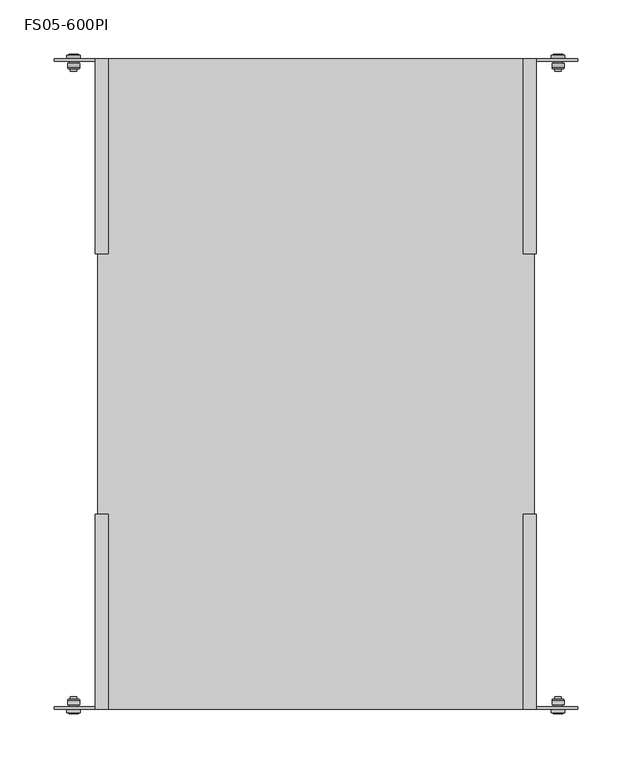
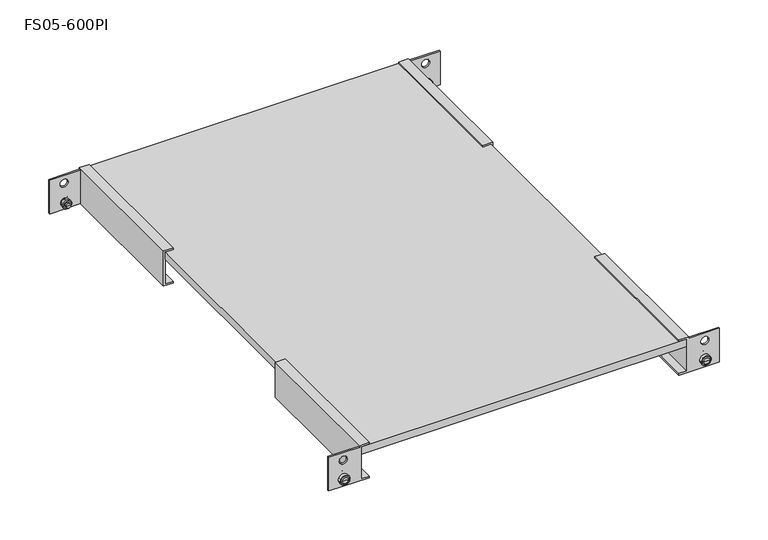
"""IFC4 building model written with IfcOpenShell, lengths in millimetres: proxy geometry, Полки стационарные универсальные : FS05-600PI."""

from ifc_helpers import new_model, si_unit, point, frame, origin, place, context, project, spatial, polyline, circle_curve, ellipse_curve, trimmed, outline, extrude, source, transform, mapped, element, save
from ifc_brep_helpers import plane_surface, cylinder_surface, revolved_surface, advanced_brep


def fs05_600pi_6c495413(model_context):
    return source(origin(), model_context, "Body", "SolidModel", [
        advanced_brep(
        [(223.4822805, 304.3499926, 10.0), (219.9883481, 304.3499926, 10.0), (226.9762128, 304.3499926, 10.0), (226.4822791, 288.7499968, 10.0), (220.4822818, 288.7499968, 10.0), (223.4822805, 288.7499968, 10.0), (226.4822791, 290.7999942, 10.0), (220.4822818, 290.7999942, 10.0), (227.9855464, 290.7999942, 10.0), (218.9790145, 290.7999942, 10.0), (228.9822767, 291.7967245, 10.0), (217.9822842, 291.7967245, 10.0), (228.9822767, 295.8, 10.0), (217.9822842, 295.8, 10.0), (227.6556322, 298.0, 10.0), (219.3089288, 298.0, 10.0), (227.6556322, 300.0, 10.0), (219.3089288, 300.0, 10.0), (229.732282, 300.0, 10.0), (217.232279, 300.0, 10.0), (229.732282, 303.5000006, 10.0), (217.232279, 303.5000006, 10.0), (228.8604456, 303.5000006, 10.0), (218.1041154, 303.5000006, 10.0)],
        [
            (0, 1),
            (1, 2, circle_curve(frame((223.4822805, 304.3499926, 10.0), z_axis=(0.0, 1.0, 0.0), x_axis=(-1.0, 0.0, 0.0)), 3.4939324)),
            (2, 0),
            (2, 1, circle_curve(frame((223.4822805, 304.3499926, 10.0), z_axis=(0.0, 1.0, 0.0), x_axis=(-1.0, 0.0, 0.0)), 3.4939324)),
            (3, 4, circle_curve(frame((223.4822805, 288.7499968, 10.0), z_axis=(0.0, -1.0, 0.0), x_axis=(-1.0, 0.0, 0.0)), 2.9999986)),
            (4, 5),
            (5, 3),
            (4, 3, circle_curve(frame((223.4822805, 288.7499968, 10.0), z_axis=(0.0, -1.0, 0.0), x_axis=(-1.0, 0.0, 0.0)), 2.9999986)),
            (6, 7, circle_curve(frame((223.4822805, 290.7999942, 10.0), z_axis=(0.0, -1.0, 0.0), x_axis=(-1.0, 0.0, 0.0)), 2.9999986)),
            (7, 4),
            (3, 6),
            (7, 6, circle_curve(frame((223.4822805, 290.7999942, 10.0), z_axis=(0.0, -1.0, 0.0), x_axis=(-1.0, 0.0, 0.0)), 2.9999986)),
            (8, 9, circle_curve(frame((223.4822805, 290.7999942, 10.0), z_axis=(0.0, -1.0, 0.0), x_axis=(-1.0, 0.0, 0.0)), 4.503266)),
            (9, 7),
            (6, 8),
            (9, 8, circle_curve(frame((223.4822805, 290.7999942, 10.0), z_axis=(0.0, -1.0, 0.0), x_axis=(-1.0, 0.0, 0.0)), 4.503266)),
            (10, 11, circle_curve(frame((223.4822805, 291.7967245, 10.0), z_axis=(0.0, -1.0, 0.0), x_axis=(-1.0, 0.0, 0.0)), 5.4999962)),
            (11, 9, circle_curve(frame((218.9790145, 291.7967245, 10.0), z_axis=(0.0, 0.0, 1.0), x_axis=(1.0, 0.0, 0.0)), 0.9967303)),
            (8, 10, circle_curve(frame((227.9855464, 291.7967245, 10.0), z_axis=(0.0, 0.0, 1.0), x_axis=(-1.0, 0.0, 0.0)), 0.9967303)),
            (11, 10, circle_curve(frame((223.4822805, 291.7967245, 10.0), z_axis=(0.0, -1.0, 0.0), x_axis=(-1.0, 0.0, 0.0)), 5.4999962)),
            (12, 13, circle_curve(frame((223.4822805, 295.8, 10.0), z_axis=(0.0, -1.0, 0.0), x_axis=(-1.0, 0.0, 0.0)), 5.4999962)),
            (13, 11),
            (10, 12),
            (13, 12, circle_curve(frame((223.4822805, 295.8, 10.0), z_axis=(0.0, -1.0, 0.0), x_axis=(-1.0, 0.0, 0.0)), 5.4999962)),
            (14, 15, circle_curve(frame((223.4822805, 298.0, 10.0), z_axis=(0.0, -1.0, 0.0), x_axis=(-1.0, 0.0, 0.0)), 4.1733517)),
            (15, 13, circle_curve(frame((217.9822789, 297.3, 10.0), z_axis=(0.0, 0.0, -1.0), x_axis=(1.0, 0.0, 0.0)), 1.5)),
            (12, 14, circle_curve(frame((228.9822821, 297.3, 10.0), z_axis=(0.0, 0.0, -1.0), x_axis=(-1.0, 0.0, 0.0)), 1.5)),
            (15, 14, circle_curve(frame((223.4822805, 298.0, 10.0), z_axis=(0.0, -1.0, 0.0), x_axis=(-1.0, 0.0, 0.0)), 4.1733517)),
            (16, 17, circle_curve(frame((223.4822805, 300.0, 10.0), z_axis=(0.0, -1.0, 0.0), x_axis=(-1.0, 0.0, 0.0)), 4.1733517)),
            (17, 15),
            (14, 16),
            (17, 16, circle_curve(frame((223.4822805, 300.0, 10.0), z_axis=(0.0, -1.0, 0.0), x_axis=(-1.0, 0.0, 0.0)), 4.1733517)),
            (18, 19, circle_curve(frame((223.4822805, 300.0, 10.0), z_axis=(0.0, -1.0, 0.0), x_axis=(-1.0, 0.0, 0.0)), 6.2500015)),
            (19, 17),
            (16, 18),
            (19, 18, circle_curve(frame((223.4822805, 300.0, 10.0), z_axis=(0.0, -1.0, 0.0), x_axis=(-1.0, 0.0, 0.0)), 6.2500015)),
            (20, 21, circle_curve(frame((223.4822805, 303.5000006, 10.0), z_axis=(0.0, -1.0, 0.0), x_axis=(-1.0, 0.0, 0.0)), 6.2500015)),
            (21, 19),
            (18, 20),
            (21, 20, circle_curve(frame((223.4822805, 303.5000006, 10.0), z_axis=(0.0, -1.0, 0.0), x_axis=(-1.0, 0.0, 0.0)), 6.2500015)),
            (22, 23, circle_curve(frame((223.4822805, 303.5000006, 10.0), z_axis=(0.0, -1.0, 0.0), x_axis=(-1.0, 0.0, 0.0)), 5.3781651)),
            (23, 21),
            (20, 22),
            (23, 22, circle_curve(frame((223.4822805, 303.5000006, 10.0), z_axis=(0.0, -1.0, 0.0), x_axis=(-1.0, 0.0, 0.0)), 5.3781651)),
            (1, 23, circle_curve(frame((219.9822789, 301.85, 10.0), z_axis=(0.0, 0.0, 1.0), x_axis=(1.0, 0.0, 0.0)), 2.5)),
            (22, 2, circle_curve(frame((226.9822821, 301.85, 10.0), z_axis=(0.0, 0.0, 1.0), x_axis=(-1.0, 0.0, 0.0)), 2.5)),
        ],
        [
            plane_surface(frame((223.4822805, 304.3499926, 10.0), z_axis=(0.0, 1.0, 0.0), x_axis=(-1.0, 0.0, 0.0))),
            plane_surface(frame((223.4822805, 288.7499968, 10.0), z_axis=(0.0, -1.0, 0.0), x_axis=(-1.0, 0.0, 0.0))),
            cylinder_surface(frame((223.4822805, -2309.0581012, 10.0), z_axis=(0.0, 1.0, 0.0), x_axis=(-1.0, 0.0, 0.0)), 2.9999986),
            plane_surface(frame((223.4822805, 290.7999942, 10.0), z_axis=(0.0, -1.0, 0.0), x_axis=(-1.0, 0.0, 0.0))),
            revolved_surface(trimmed(ellipse_curve(frame((218.9790145, 291.7967245, 10.0), z_axis=(0.0, 0.0, -1.0), x_axis=(1.0, 0.0, 0.0)), 0.9967303, 0.9967303), [point((218.9790145, 290.7999942, 10.0))], [point((217.9822842, 291.7967245, 10.0))], True, "CARTESIAN"), (223.4822805, -2309.0581012, 10.0), (0.0, 1.0, 0.0)),
            cylinder_surface(frame((223.4822805, -2309.0581012, 10.0), z_axis=(0.0, 1.0, 0.0), x_axis=(-1.0, 0.0, 0.0)), 5.4999962),
            revolved_surface(trimmed(ellipse_curve(frame((217.9822789, 297.3, 10.0), z_axis=(0.0, 0.0, 1.0), x_axis=(1.0, 0.0, 0.0)), 1.5, 1.5), [point((217.9822842, 295.8, 10.0))], [point((219.3089288, 298.0, 10.0))], True, "CARTESIAN"), (223.4822805, -2309.0581012, 10.0), (0.0, 1.0, 0.0)),
            cylinder_surface(frame((223.4822805, -2309.0581012, 10.0), z_axis=(0.0, 1.0, 0.0), x_axis=(-1.0, 0.0, 0.0)), 4.1733517),
            plane_surface(frame((223.4822805, 300.0, 10.0), z_axis=(0.0, -1.0, 0.0), x_axis=(-1.0, 0.0, 0.0))),
            cylinder_surface(frame((223.4822805, -2309.0581012, 10.0), z_axis=(0.0, 1.0, 0.0), x_axis=(-1.0, 0.0, 0.0)), 6.2500015),
            plane_surface(frame((223.4822805, 303.5000006, 10.0), z_axis=(0.0, 1.0, 0.0), x_axis=(-1.0, 0.0, 0.0))),
            revolved_surface(trimmed(ellipse_curve(frame((219.9822789, 301.85, 10.0), z_axis=(0.0, 0.0, -1.0), x_axis=(1.0, 0.0, 0.0)), 2.5, 2.5), [point((218.1041154, 303.5000006, 10.0))], [point((219.9883481, 304.3499926, 10.0))], True, "CARTESIAN"), (223.4822805, -2309.0581012, 10.0), (0.0, 1.0, 0.0)),
        ],
        [
            (0, [[1, 2, 3]]),
            (0, [[-3, 4, -1]]),
            (1, [[5, 6, 7]]),
            (1, [[8, -7, -6]]),
            (2, [[9, 10, -5, 11]]),
            (2, [[12, -11, -8, -10]]),
            (3, [[13, 14, -9, 15]]),
            (3, [[16, -15, -12, -14]]),
            (4, [[17, 18, -13, 19]]),
            (4, [[20, -19, -16, -18]]),
            (5, [[21, 22, -17, 23]]),
            (5, [[24, -23, -20, -22]]),
            (6, [[25, 26, -21, 27]]),
            (6, [[28, -27, -24, -26]]),
            (7, [[29, 30, -25, 31]]),
            (7, [[32, -31, -28, -30]]),
            (8, [[33, 34, -29, 35]]),
            (8, [[36, -35, -32, -34]]),
            (9, [[37, 38, -33, 39]]),
            (9, [[40, -39, -36, -38]]),
            (10, [[41, 42, -37, 43]]),
            (10, [[44, -43, -40, -42]]),
            (11, [[-2, 45, -41, 46]]),
            (11, [[-4, -46, -44, -45]]),
        ],
    ),
        advanced_brep(
        [(-223.4822805, 304.3499926, 10.0), (-226.9762128, 304.3499926, 10.0), (-219.9883481, 304.3499926, 10.0), (-220.4822818, 288.7499968, 10.0), (-226.4822791, 288.7499968, 10.0), (-223.4822805, 288.7499968, 10.0), (-220.4822818, 290.7999942, 10.0), (-226.4822791, 290.7999942, 10.0), (-218.9790145, 290.7999942, 10.0), (-227.9855464, 290.7999942, 10.0), (-217.9822842, 291.7967245, 10.0), (-228.9822767, 291.7967245, 10.0), (-217.9822842, 295.8, 10.0), (-228.9822767, 295.8, 10.0), (-219.3089288, 298.0, 10.0), (-227.6556322, 298.0, 10.0), (-219.3089288, 300.0, 10.0), (-227.6556322, 300.0, 10.0), (-217.232279, 300.0, 10.0), (-229.732282, 300.0, 10.0), (-217.232279, 303.5000006, 10.0), (-229.732282, 303.5000006, 10.0), (-218.1041154, 303.5000006, 10.0), (-228.8604456, 303.5000006, 10.0)],
        [
            (0, 1),
            (1, 2, circle_curve(frame((-223.4822805, 304.3499926, 10.0), z_axis=(0.0, 1.0, 0.0), x_axis=(-1.0, 0.0, 0.0)), 3.4939324)),
            (2, 0),
            (2, 1, circle_curve(frame((-223.4822805, 304.3499926, 10.0), z_axis=(0.0, 1.0, 0.0), x_axis=(-1.0, 0.0, 0.0)), 3.4939324)),
            (3, 4, circle_curve(frame((-223.4822805, 288.7499968, 10.0), z_axis=(0.0, -1.0, 0.0), x_axis=(-1.0, 0.0, 0.0)), 2.9999986)),
            (4, 5),
            (5, 3),
            (4, 3, circle_curve(frame((-223.4822805, 288.7499968, 10.0), z_axis=(0.0, -1.0, 0.0), x_axis=(-1.0, 0.0, 0.0)), 2.9999986)),
            (6, 7, circle_curve(frame((-223.4822805, 290.7999942, 10.0), z_axis=(0.0, -1.0, 0.0), x_axis=(-1.0, 0.0, 0.0)), 2.9999986)),
            (7, 4),
            (3, 6),
            (7, 6, circle_curve(frame((-223.4822805, 290.7999942, 10.0), z_axis=(0.0, -1.0, 0.0), x_axis=(-1.0, 0.0, 0.0)), 2.9999986)),
            (8, 9, circle_curve(frame((-223.4822805, 290.7999942, 10.0), z_axis=(0.0, -1.0, 0.0), x_axis=(-1.0, 0.0, 0.0)), 4.503266)),
            (9, 7),
            (6, 8),
            (9, 8, circle_curve(frame((-223.4822805, 290.7999942, 10.0), z_axis=(0.0, -1.0, 0.0), x_axis=(-1.0, 0.0, 0.0)), 4.503266)),
            (10, 11, circle_curve(frame((-223.4822805, 291.7967245, 10.0), z_axis=(0.0, -1.0, 0.0), x_axis=(-1.0, 0.0, 0.0)), 5.4999962)),
            (11, 9, circle_curve(frame((-227.9855464, 291.7967245, 10.0), z_axis=(0.0, 0.0, 1.0), x_axis=(1.0, 0.0, 0.0)), 0.9967303)),
            (8, 10, circle_curve(frame((-218.9790145, 291.7967245, 10.0), z_axis=(0.0, 0.0, 1.0), x_axis=(-1.0, 0.0, 0.0)), 0.9967303)),
            (11, 10, circle_curve(frame((-223.4822805, 291.7967245, 10.0), z_axis=(0.0, -1.0, 0.0), x_axis=(-1.0, 0.0, 0.0)), 5.4999962)),
            (12, 13, circle_curve(frame((-223.4822805, 295.8, 10.0), z_axis=(0.0, -1.0, 0.0), x_axis=(-1.0, 0.0, 0.0)), 5.4999962)),
            (13, 11),
            (10, 12),
            (13, 12, circle_curve(frame((-223.4822805, 295.8, 10.0), z_axis=(0.0, -1.0, 0.0), x_axis=(-1.0, 0.0, 0.0)), 5.4999962)),
            (14, 15, circle_curve(frame((-223.4822805, 298.0, 10.0), z_axis=(0.0, -1.0, 0.0), x_axis=(-1.0, 0.0, 0.0)), 4.1733517)),
            (15, 13, circle_curve(frame((-228.9822821, 297.3, 10.0), z_axis=(0.0, 0.0, -1.0), x_axis=(1.0, 0.0, 0.0)), 1.5)),
            (12, 14, circle_curve(frame((-217.9822789, 297.3, 10.0), z_axis=(0.0, 0.0, -1.0), x_axis=(-1.0, 0.0, 0.0)), 1.5)),
            (15, 14, circle_curve(frame((-223.4822805, 298.0, 10.0), z_axis=(0.0, -1.0, 0.0), x_axis=(-1.0, 0.0, 0.0)), 4.1733517)),
            (16, 17, circle_curve(frame((-223.4822805, 300.0, 10.0), z_axis=(0.0, -1.0, 0.0), x_axis=(-1.0, 0.0, 0.0)), 4.1733517)),
            (17, 15),
            (14, 16),
            (17, 16, circle_curve(frame((-223.4822805, 300.0, 10.0), z_axis=(0.0, -1.0, 0.0), x_axis=(-1.0, 0.0, 0.0)), 4.1733517)),
            (18, 19, circle_curve(frame((-223.4822805, 300.0, 10.0), z_axis=(0.0, -1.0, 0.0), x_axis=(-1.0, 0.0, 0.0)), 6.2500015)),
            (19, 17),
            (16, 18),
            (19, 18, circle_curve(frame((-223.4822805, 300.0, 10.0), z_axis=(0.0, -1.0, 0.0), x_axis=(-1.0, 0.0, 0.0)), 6.2500015)),
            (20, 21, circle_curve(frame((-223.4822805, 303.5000006, 10.0), z_axis=(0.0, -1.0, 0.0), x_axis=(-1.0, 0.0, 0.0)), 6.2500015)),
            (21, 19),
            (18, 20),
            (21, 20, circle_curve(frame((-223.4822805, 303.5000006, 10.0), z_axis=(0.0, -1.0, 0.0), x_axis=(-1.0, 0.0, 0.0)), 6.2500015)),
            (22, 23, circle_curve(frame((-223.4822805, 303.5000006, 10.0), z_axis=(0.0, -1.0, 0.0), x_axis=(-1.0, 0.0, 0.0)), 5.3781651)),
            (23, 21),
            (20, 22),
            (23, 22, circle_curve(frame((-223.4822805, 303.5000006, 10.0), z_axis=(0.0, -1.0, 0.0), x_axis=(-1.0, 0.0, 0.0)), 5.3781651)),
            (1, 23, circle_curve(frame((-226.9822821, 301.85, 10.0), z_axis=(0.0, 0.0, 1.0), x_axis=(1.0, 0.0, 0.0)), 2.5)),
            (22, 2, circle_curve(frame((-219.9822789, 301.85, 10.0), z_axis=(0.0, 0.0, 1.0), x_axis=(-1.0, 0.0, 0.0)), 2.5)),
        ],
        [
            plane_surface(frame((-223.4822805, 304.3499926, 10.0), z_axis=(0.0, 1.0, 0.0), x_axis=(-1.0, 0.0, 0.0))),
            plane_surface(frame((-223.4822805, 288.7499968, 10.0), z_axis=(0.0, -1.0, 0.0), x_axis=(-1.0, 0.0, 0.0))),
            cylinder_surface(frame((-223.4822805, -2309.0581012, 10.0), z_axis=(0.0, 1.0, 0.0), x_axis=(-1.0, 0.0, 0.0)), 2.9999986),
            plane_surface(frame((-223.4822805, 290.7999942, 10.0), z_axis=(0.0, -1.0, 0.0), x_axis=(-1.0, 0.0, 0.0))),
            revolved_surface(trimmed(ellipse_curve(frame((-227.9855464, 291.7967245, 10.0), z_axis=(0.0, 0.0, -1.0), x_axis=(1.0, 0.0, 0.0)), 0.9967303, 0.9967303), [point((-227.9855464, 290.7999942, 10.0))], [point((-228.9822767, 291.7967245, 10.0))], True, "CARTESIAN"), (-223.4822805, -2309.0581012, 10.0), (0.0, 1.0, 0.0)),
            cylinder_surface(frame((-223.4822805, -2309.0581012, 10.0), z_axis=(0.0, 1.0, 0.0), x_axis=(-1.0, 0.0, 0.0)), 5.4999962),
            revolved_surface(trimmed(ellipse_curve(frame((-228.9822821, 297.3, 10.0), z_axis=(0.0, 0.0, 1.0), x_axis=(1.0, 0.0, 0.0)), 1.5, 1.5), [point((-228.9822767, 295.8, 10.0))], [point((-227.6556322, 298.0, 10.0))], True, "CARTESIAN"), (-223.4822805, -2309.0581012, 10.0), (0.0, 1.0, 0.0)),
            cylinder_surface(frame((-223.4822805, -2309.0581012, 10.0), z_axis=(0.0, 1.0, 0.0), x_axis=(-1.0, 0.0, 0.0)), 4.1733517),
            plane_surface(frame((-223.4822805, 300.0, 10.0), z_axis=(0.0, -1.0, 0.0), x_axis=(-1.0, 0.0, 0.0))),
            cylinder_surface(frame((-223.4822805, -2309.0581012, 10.0), z_axis=(0.0, 1.0, 0.0), x_axis=(-1.0, 0.0, 0.0)), 6.2500015),
            plane_surface(frame((-223.4822805, 303.5000006, 10.0), z_axis=(0.0, 1.0, 0.0), x_axis=(-1.0, 0.0, 0.0))),
            revolved_surface(trimmed(ellipse_curve(frame((-226.9822821, 301.85, 10.0), z_axis=(0.0, 0.0, -1.0), x_axis=(1.0, 0.0, 0.0)), 2.5, 2.5), [point((-228.8604456, 303.5000006, 10.0))], [point((-226.9762128, 304.3499926, 10.0))], True, "CARTESIAN"), (-223.4822805, -2309.0581012, 10.0), (0.0, 1.0, 0.0)),
        ],
        [
            (0, [[1, 2, 3]]),
            (0, [[-3, 4, -1]]),
            (1, [[5, 6, 7]]),
            (1, [[8, -7, -6]]),
            (2, [[9, 10, -5, 11]]),
            (2, [[12, -11, -8, -10]]),
            (3, [[13, 14, -9, 15]]),
            (3, [[16, -15, -12, -14]]),
            (4, [[17, 18, -13, 19]]),
            (4, [[20, -19, -16, -18]]),
            (5, [[21, 22, -17, 23]]),
            (5, [[24, -23, -20, -22]]),
            (6, [[25, 26, -21, 27]]),
            (6, [[28, -27, -24, -26]]),
            (7, [[29, 30, -25, 31]]),
            (7, [[32, -31, -28, -30]]),
            (8, [[33, 34, -29, 35]]),
            (8, [[36, -35, -32, -34]]),
            (9, [[37, 38, -33, 39]]),
            (9, [[40, -39, -36, -38]]),
            (10, [[41, 42, -37, 43]]),
            (10, [[44, -43, -40, -42]]),
            (11, [[-2, 45, -41, 46]]),
            (11, [[-4, -46, -44, -45]]),
        ],
    ),
        advanced_brep(
        [(-223.4822805, -304.3499926, 10.0), (-219.9883481, -304.3499926, 10.0), (-226.9762128, -304.3499926, 10.0), (-226.4822791, -288.7499968, 10.0), (-220.4822818, -288.7499968, 10.0), (-223.4822805, -288.7499968, 10.0), (-226.4822791, -290.7999942, 10.0), (-220.4822818, -290.7999942, 10.0), (-227.9855464, -290.7999942, 10.0), (-218.9790145, -290.7999942, 10.0), (-228.9822767, -291.7967245, 10.0), (-217.9822842, -291.7967245, 10.0), (-228.9822767, -295.8, 10.0), (-217.9822842, -295.8, 10.0), (-227.6556322, -298.0, 10.0), (-219.3089288, -298.0, 10.0), (-227.6556322, -300.0, 10.0), (-219.3089288, -300.0, 10.0), (-229.732282, -300.0, 10.0), (-217.232279, -300.0, 10.0), (-229.732282, -303.5000006, 10.0), (-217.232279, -303.5000006, 10.0), (-228.8604456, -303.5000006, 10.0), (-218.1041154, -303.5000006, 10.0)],
        [
            (0, 1),
            (1, 2, circle_curve(frame((-223.4822805, -304.3499926, 10.0), z_axis=(0.0, -1.0, 0.0), x_axis=(1.0, 0.0, 0.0)), 3.4939324)),
            (2, 0),
            (2, 1, circle_curve(frame((-223.4822805, -304.3499926, 10.0), z_axis=(0.0, -1.0, 0.0), x_axis=(1.0, 0.0, 0.0)), 3.4939324)),
            (3, 4, circle_curve(frame((-223.4822805, -288.7499968, 10.0), z_axis=(0.0, 1.0, 0.0), x_axis=(1.0, 0.0, 0.0)), 2.9999986)),
            (4, 5),
            (5, 3),
            (4, 3, circle_curve(frame((-223.4822805, -288.7499968, 10.0), z_axis=(0.0, 1.0, 0.0), x_axis=(1.0, 0.0, 0.0)), 2.9999986)),
            (6, 7, circle_curve(frame((-223.4822805, -290.7999942, 10.0), z_axis=(0.0, 1.0, 0.0), x_axis=(1.0, 0.0, 0.0)), 2.9999986)),
            (7, 4),
            (3, 6),
            (7, 6, circle_curve(frame((-223.4822805, -290.7999942, 10.0), z_axis=(0.0, 1.0, 0.0), x_axis=(1.0, 0.0, 0.0)), 2.9999986)),
            (8, 9, circle_curve(frame((-223.4822805, -290.7999942, 10.0), z_axis=(0.0, 1.0, 0.0), x_axis=(1.0, 0.0, 0.0)), 4.503266)),
            (9, 7),
            (6, 8),
            (9, 8, circle_curve(frame((-223.4822805, -290.7999942, 10.0), z_axis=(0.0, 1.0, 0.0), x_axis=(1.0, 0.0, 0.0)), 4.503266)),
            (10, 11, circle_curve(frame((-223.4822805, -291.7967245, 10.0), z_axis=(0.0, 1.0, 0.0), x_axis=(1.0, 0.0, 0.0)), 5.4999962)),
            (11, 9, circle_curve(frame((-218.9790145, -291.7967245, 10.0), z_axis=(0.0, 0.0, 1.0), x_axis=(-1.0, 0.0, 0.0)), 0.9967303)),
            (8, 10, circle_curve(frame((-227.9855464, -291.7967245, 10.0), z_axis=(0.0, 0.0, 1.0), x_axis=(1.0, 0.0, 0.0)), 0.9967303)),
            (11, 10, circle_curve(frame((-223.4822805, -291.7967245, 10.0), z_axis=(0.0, 1.0, 0.0), x_axis=(1.0, 0.0, 0.0)), 5.4999962)),
            (12, 13, circle_curve(frame((-223.4822805, -295.8, 10.0), z_axis=(0.0, 1.0, 0.0), x_axis=(1.0, 0.0, 0.0)), 5.4999962)),
            (13, 11),
            (10, 12),
            (13, 12, circle_curve(frame((-223.4822805, -295.8, 10.0), z_axis=(0.0, 1.0, 0.0), x_axis=(1.0, 0.0, 0.0)), 5.4999962)),
            (14, 15, circle_curve(frame((-223.4822805, -298.0, 10.0), z_axis=(0.0, 1.0, 0.0), x_axis=(1.0, 0.0, 0.0)), 4.1733517)),
            (15, 13, circle_curve(frame((-217.9822789, -297.3, 10.0), z_axis=(0.0, 0.0, -1.0), x_axis=(-1.0, 0.0, 0.0)), 1.5)),
            (12, 14, circle_curve(frame((-228.9822821, -297.3, 10.0), z_axis=(0.0, 0.0, -1.0), x_axis=(1.0, 0.0, 0.0)), 1.5)),
            (15, 14, circle_curve(frame((-223.4822805, -298.0, 10.0), z_axis=(0.0, 1.0, 0.0), x_axis=(1.0, 0.0, 0.0)), 4.1733517)),
            (16, 17, circle_curve(frame((-223.4822805, -300.0, 10.0), z_axis=(0.0, 1.0, 0.0), x_axis=(1.0, 0.0, 0.0)), 4.1733517)),
            (17, 15),
            (14, 16),
            (17, 16, circle_curve(frame((-223.4822805, -300.0, 10.0), z_axis=(0.0, 1.0, 0.0), x_axis=(1.0, 0.0, 0.0)), 4.1733517)),
            (18, 19, circle_curve(frame((-223.4822805, -300.0, 10.0), z_axis=(0.0, 1.0, 0.0), x_axis=(1.0, 0.0, 0.0)), 6.2500015)),
            (19, 17),
            (16, 18),
            (19, 18, circle_curve(frame((-223.4822805, -300.0, 10.0), z_axis=(0.0, 1.0, 0.0), x_axis=(1.0, 0.0, 0.0)), 6.2500015)),
            (20, 21, circle_curve(frame((-223.4822805, -303.5000006, 10.0), z_axis=(0.0, 1.0, 0.0), x_axis=(1.0, 0.0, 0.0)), 6.2500015)),
            (21, 19),
            (18, 20),
            (21, 20, circle_curve(frame((-223.4822805, -303.5000006, 10.0), z_axis=(0.0, 1.0, 0.0), x_axis=(1.0, 0.0, 0.0)), 6.2500015)),
            (22, 23, circle_curve(frame((-223.4822805, -303.5000006, 10.0), z_axis=(0.0, 1.0, 0.0), x_axis=(1.0, 0.0, 0.0)), 5.3781651)),
            (23, 21),
            (20, 22),
            (23, 22, circle_curve(frame((-223.4822805, -303.5000006, 10.0), z_axis=(0.0, 1.0, 0.0), x_axis=(1.0, 0.0, 0.0)), 5.3781651)),
            (1, 23, circle_curve(frame((-219.9822789, -301.85, 10.0), z_axis=(0.0, 0.0, 1.0), x_axis=(-1.0, 0.0, 0.0)), 2.5)),
            (22, 2, circle_curve(frame((-226.9822821, -301.85, 10.0), z_axis=(0.0, 0.0, 1.0), x_axis=(1.0, 0.0, 0.0)), 2.5)),
        ],
        [
            plane_surface(frame((-223.4822805, -304.3499926, 10.0), z_axis=(0.0, -1.0, 0.0), x_axis=(1.0, 0.0, 0.0))),
            plane_surface(frame((-223.4822805, -288.7499968, 10.0), z_axis=(0.0, 1.0, 0.0), x_axis=(1.0, 0.0, 0.0))),
            cylinder_surface(frame((-223.4822805, 2309.0581012, 10.0), z_axis=(0.0, -1.0, 0.0), x_axis=(1.0, 0.0, 0.0)), 2.9999986),
            plane_surface(frame((-223.4822805, -290.7999942, 10.0), z_axis=(0.0, 1.0, 0.0), x_axis=(1.0, 0.0, 0.0))),
            revolved_surface(trimmed(ellipse_curve(frame((-218.9790145, -291.7967245, 10.0), z_axis=(0.0, 0.0, -1.0), x_axis=(-1.0, 0.0, 0.0)), 0.9967303, 0.9967303), [point((-218.9790145, -290.7999942, 10.0))], [point((-217.9822842, -291.7967245, 10.0))], True, "CARTESIAN"), (-223.4822805, 2309.0581012, 10.0), (0.0, -1.0, 0.0)),
            cylinder_surface(frame((-223.4822805, 2309.0581012, 10.0), z_axis=(0.0, -1.0, 0.0), x_axis=(1.0, 0.0, 0.0)), 5.4999962),
            revolved_surface(trimmed(ellipse_curve(frame((-217.9822789, -297.3, 10.0), z_axis=(0.0, 0.0, 1.0), x_axis=(-1.0, 0.0, 0.0)), 1.5, 1.5), [point((-217.9822842, -295.8, 10.0))], [point((-219.3089288, -298.0, 10.0))], True, "CARTESIAN"), (-223.4822805, 2309.0581012, 10.0), (0.0, -1.0, 0.0)),
            cylinder_surface(frame((-223.4822805, 2309.0581012, 10.0), z_axis=(0.0, -1.0, 0.0), x_axis=(1.0, 0.0, 0.0)), 4.1733517),
            plane_surface(frame((-223.4822805, -300.0, 10.0), z_axis=(0.0, 1.0, 0.0), x_axis=(1.0, 0.0, 0.0))),
            cylinder_surface(frame((-223.4822805, 2309.0581012, 10.0), z_axis=(0.0, -1.0, 0.0), x_axis=(1.0, 0.0, 0.0)), 6.2500015),
            plane_surface(frame((-223.4822805, -303.5000006, 10.0), z_axis=(0.0, -1.0, 0.0), x_axis=(1.0, 0.0, 0.0))),
            revolved_surface(trimmed(ellipse_curve(frame((-219.9822789, -301.85, 10.0), z_axis=(0.0, 0.0, -1.0), x_axis=(-1.0, 0.0, 0.0)), 2.5, 2.5), [point((-218.1041154, -303.5000006, 10.0))], [point((-219.9883481, -304.3499926, 10.0))], True, "CARTESIAN"), (-223.4822805, 2309.0581012, 10.0), (0.0, -1.0, 0.0)),
        ],
        [
            (0, [[1, 2, 3]]),
            (0, [[-3, 4, -1]]),
            (1, [[5, 6, 7]]),
            (1, [[8, -7, -6]]),
            (2, [[9, 10, -5, 11]]),
            (2, [[12, -11, -8, -10]]),
            (3, [[13, 14, -9, 15]]),
            (3, [[16, -15, -12, -14]]),
            (4, [[17, 18, -13, 19]]),
            (4, [[20, -19, -16, -18]]),
            (5, [[21, 22, -17, 23]]),
            (5, [[24, -23, -20, -22]]),
            (6, [[25, 26, -21, 27]]),
            (6, [[28, -27, -24, -26]]),
            (7, [[29, 30, -25, 31]]),
            (7, [[32, -31, -28, -30]]),
            (8, [[33, 34, -29, 35]]),
            (8, [[36, -35, -32, -34]]),
            (9, [[37, 38, -33, 39]]),
            (9, [[40, -39, -36, -38]]),
            (10, [[41, 42, -37, 43]]),
            (10, [[44, -43, -40, -42]]),
            (11, [[-2, 45, -41, 46]]),
            (11, [[-4, -46, -44, -45]]),
        ],
    ),
        advanced_brep(
        [(223.4822805, -304.3499926, 10.0), (226.9762128, -304.3499926, 10.0), (219.9883481, -304.3499926, 10.0), (220.4822818, -288.7499968, 10.0), (226.4822791, -288.7499968, 10.0), (223.4822805, -288.7499968, 10.0), (220.4822818, -290.7999942, 10.0), (226.4822791, -290.7999942, 10.0), (218.9790145, -290.7999942, 10.0), (227.9855464, -290.7999942, 10.0), (217.9822842, -291.7967245, 10.0), (228.9822767, -291.7967245, 10.0), (217.9822842, -295.8, 10.0), (228.9822767, -295.8, 10.0), (219.3089288, -298.0, 10.0), (227.6556322, -298.0, 10.0), (219.3089288, -300.0, 10.0), (227.6556322, -300.0, 10.0), (217.232279, -300.0, 10.0), (229.732282, -300.0, 10.0), (217.232279, -303.5000006, 10.0), (229.732282, -303.5000006, 10.0), (218.1041154, -303.5000006, 10.0), (228.8604456, -303.5000006, 10.0)],
        [
            (0, 1),
            (1, 2, circle_curve(frame((223.4822805, -304.3499926, 10.0), z_axis=(0.0, -1.0, 0.0), x_axis=(1.0, 0.0, 0.0)), 3.4939324)),
            (2, 0),
            (2, 1, circle_curve(frame((223.4822805, -304.3499926, 10.0), z_axis=(0.0, -1.0, 0.0), x_axis=(1.0, 0.0, 0.0)), 3.4939324)),
            (3, 4, circle_curve(frame((223.4822805, -288.7499968, 10.0), z_axis=(0.0, 1.0, 0.0), x_axis=(1.0, 0.0, 0.0)), 2.9999986)),
            (4, 5),
            (5, 3),
            (4, 3, circle_curve(frame((223.4822805, -288.7499968, 10.0), z_axis=(0.0, 1.0, 0.0), x_axis=(1.0, 0.0, 0.0)), 2.9999986)),
            (6, 7, circle_curve(frame((223.4822805, -290.7999942, 10.0), z_axis=(0.0, 1.0, 0.0), x_axis=(1.0, 0.0, 0.0)), 2.9999986)),
            (7, 4),
            (3, 6),
            (7, 6, circle_curve(frame((223.4822805, -290.7999942, 10.0), z_axis=(0.0, 1.0, 0.0), x_axis=(1.0, 0.0, 0.0)), 2.9999986)),
            (8, 9, circle_curve(frame((223.4822805, -290.7999942, 10.0), z_axis=(0.0, 1.0, 0.0), x_axis=(1.0, 0.0, 0.0)), 4.503266)),
            (9, 7),
            (6, 8),
            (9, 8, circle_curve(frame((223.4822805, -290.7999942, 10.0), z_axis=(0.0, 1.0, 0.0), x_axis=(1.0, 0.0, 0.0)), 4.503266)),
            (10, 11, circle_curve(frame((223.4822805, -291.7967245, 10.0), z_axis=(0.0, 1.0, 0.0), x_axis=(1.0, 0.0, 0.0)), 5.4999962)),
            (11, 9, circle_curve(frame((227.9855464, -291.7967245, 10.0), z_axis=(0.0, 0.0, 1.0), x_axis=(-1.0, 0.0, 0.0)), 0.9967303)),
            (8, 10, circle_curve(frame((218.9790145, -291.7967245, 10.0), z_axis=(0.0, 0.0, 1.0), x_axis=(1.0, 0.0, 0.0)), 0.9967303)),
            (11, 10, circle_curve(frame((223.4822805, -291.7967245, 10.0), z_axis=(0.0, 1.0, 0.0), x_axis=(1.0, 0.0, 0.0)), 5.4999962)),
            (12, 13, circle_curve(frame((223.4822805, -295.8, 10.0), z_axis=(0.0, 1.0, 0.0), x_axis=(1.0, 0.0, 0.0)), 5.4999962)),
            (13, 11),
            (10, 12),
            (13, 12, circle_curve(frame((223.4822805, -295.8, 10.0), z_axis=(0.0, 1.0, 0.0), x_axis=(1.0, 0.0, 0.0)), 5.4999962)),
            (14, 15, circle_curve(frame((223.4822805, -298.0, 10.0), z_axis=(0.0, 1.0, 0.0), x_axis=(1.0, 0.0, 0.0)), 4.1733517)),
            (15, 13, circle_curve(frame((228.9822821, -297.3, 10.0), z_axis=(0.0, 0.0, -1.0), x_axis=(-1.0, 0.0, 0.0)), 1.5)),
            (12, 14, circle_curve(frame((217.9822789, -297.3, 10.0), z_axis=(0.0, 0.0, -1.0), x_axis=(1.0, 0.0, 0.0)), 1.5)),
            (15, 14, circle_curve(frame((223.4822805, -298.0, 10.0), z_axis=(0.0, 1.0, 0.0), x_axis=(1.0, 0.0, 0.0)), 4.1733517)),
            (16, 17, circle_curve(frame((223.4822805, -300.0, 10.0), z_axis=(0.0, 1.0, 0.0), x_axis=(1.0, 0.0, 0.0)), 4.1733517)),
            (17, 15),
            (14, 16),
            (17, 16, circle_curve(frame((223.4822805, -300.0, 10.0), z_axis=(0.0, 1.0, 0.0), x_axis=(1.0, 0.0, 0.0)), 4.1733517)),
            (18, 19, circle_curve(frame((223.4822805, -300.0, 10.0), z_axis=(0.0, 1.0, 0.0), x_axis=(1.0, 0.0, 0.0)), 6.2500015)),
            (19, 17),
            (16, 18),
            (19, 18, circle_curve(frame((223.4822805, -300.0, 10.0), z_axis=(0.0, 1.0, 0.0), x_axis=(1.0, 0.0, 0.0)), 6.2500015)),
            (20, 21, circle_curve(frame((223.4822805, -303.5000006, 10.0), z_axis=(0.0, 1.0, 0.0), x_axis=(1.0, 0.0, 0.0)), 6.2500015)),
            (21, 19),
            (18, 20),
            (21, 20, circle_curve(frame((223.4822805, -303.5000006, 10.0), z_axis=(0.0, 1.0, 0.0), x_axis=(1.0, 0.0, 0.0)), 6.2500015)),
            (22, 23, circle_curve(frame((223.4822805, -303.5000006, 10.0), z_axis=(0.0, 1.0, 0.0), x_axis=(1.0, 0.0, 0.0)), 5.3781651)),
            (23, 21),
            (20, 22),
            (23, 22, circle_curve(frame((223.4822805, -303.5000006, 10.0), z_axis=(0.0, 1.0, 0.0), x_axis=(1.0, 0.0, 0.0)), 5.3781651)),
            (1, 23, circle_curve(frame((226.9822821, -301.85, 10.0), z_axis=(0.0, 0.0, 1.0), x_axis=(-1.0, 0.0, 0.0)), 2.5)),
            (22, 2, circle_curve(frame((219.9822789, -301.85, 10.0), z_axis=(0.0, 0.0, 1.0), x_axis=(1.0, 0.0, 0.0)), 2.5)),
        ],
        [
            plane_surface(frame((223.4822805, -304.3499926, 10.0), z_axis=(0.0, -1.0, 0.0), x_axis=(1.0, 0.0, 0.0))),
            plane_surface(frame((223.4822805, -288.7499968, 10.0), z_axis=(0.0, 1.0, 0.0), x_axis=(1.0, 0.0, 0.0))),
            cylinder_surface(frame((223.4822805, 2309.0581012, 10.0), z_axis=(0.0, -1.0, 0.0), x_axis=(1.0, 0.0, 0.0)), 2.9999986),
            plane_surface(frame((223.4822805, -290.7999942, 10.0), z_axis=(0.0, 1.0, 0.0), x_axis=(1.0, 0.0, 0.0))),
            revolved_surface(trimmed(ellipse_curve(frame((227.9855464, -291.7967245, 10.0), z_axis=(0.0, 0.0, -1.0), x_axis=(-1.0, 0.0, 0.0)), 0.9967303, 0.9967303), [point((227.9855464, -290.7999942, 10.0))], [point((228.9822767, -291.7967245, 10.0))], True, "CARTESIAN"), (223.4822805, 2309.0581012, 10.0), (0.0, -1.0, 0.0)),
            cylinder_surface(frame((223.4822805, 2309.0581012, 10.0), z_axis=(0.0, -1.0, 0.0), x_axis=(1.0, 0.0, 0.0)), 5.4999962),
            revolved_surface(trimmed(ellipse_curve(frame((228.9822821, -297.3, 10.0), z_axis=(0.0, 0.0, 1.0), x_axis=(-1.0, 0.0, 0.0)), 1.5, 1.5), [point((228.9822767, -295.8, 10.0))], [point((227.6556322, -298.0, 10.0))], True, "CARTESIAN"), (223.4822805, 2309.0581012, 10.0), (0.0, -1.0, 0.0)),
            cylinder_surface(frame((223.4822805, 2309.0581012, 10.0), z_axis=(0.0, -1.0, 0.0), x_axis=(1.0, 0.0, 0.0)), 4.1733517),
            plane_surface(frame((223.4822805, -300.0, 10.0), z_axis=(0.0, 1.0, 0.0), x_axis=(1.0, 0.0, 0.0))),
            cylinder_surface(frame((223.4822805, 2309.0581012, 10.0), z_axis=(0.0, -1.0, 0.0), x_axis=(1.0, 0.0, 0.0)), 6.2500015),
            plane_surface(frame((223.4822805, -303.5000006, 10.0), z_axis=(0.0, -1.0, 0.0), x_axis=(1.0, 0.0, 0.0))),
            revolved_surface(trimmed(ellipse_curve(frame((226.9822821, -301.85, 10.0), z_axis=(0.0, 0.0, -1.0), x_axis=(-1.0, 0.0, 0.0)), 2.5, 2.5), [point((228.8604456, -303.5000006, 10.0))], [point((226.9762128, -304.3499926, 10.0))], True, "CARTESIAN"), (223.4822805, 2309.0581012, 10.0), (0.0, -1.0, 0.0)),
        ],
        [
            (0, [[1, 2, 3]]),
            (0, [[-3, 4, -1]]),
            (1, [[5, 6, 7]]),
            (1, [[8, -7, -6]]),
            (2, [[9, 10, -5, 11]]),
            (2, [[12, -11, -8, -10]]),
            (3, [[13, 14, -9, 15]]),
            (3, [[16, -15, -12, -14]]),
            (4, [[17, 18, -13, 19]]),
            (4, [[20, -19, -16, -18]]),
            (5, [[21, 22, -17, 23]]),
            (5, [[24, -23, -20, -22]]),
            (6, [[25, 26, -21, 27]]),
            (6, [[28, -27, -24, -26]]),
            (7, [[29, 30, -25, 31]]),
            (7, [[32, -31, -28, -30]]),
            (8, [[33, 34, -29, 35]]),
            (8, [[36, -35, -32, -34]]),
            (9, [[37, 38, -33, 39]]),
            (9, [[40, -39, -36, -38]]),
            (10, [[41, 42, -37, 43]]),
            (10, [[44, -43, -40, -42]]),
            (11, [[-2, 45, -41, 46]]),
            (11, [[-4, -46, -44, -45]]),
        ],
    ),
        advanced_brep(
        [(-191.5, -300.0, 44.0), (-191.5, -300.0, 46.0), (-203.5, -300.0, 46.0), (-203.5, -300.0, 44.0), (-241.5, -300.0, 44.0), (-241.5, -300.0, 0.0), (-191.5, -300.0, 0.0), (-191.5, -300.0, 2.0), (-201.5, -300.0, 2.0), (-201.5, -300.0, 44.0), (-218.6086696, -300.0, 34.0), (-228.6086696, -300.0, 34.0), (-191.5, -120.0, 44.0), (-201.5, -120.0, 44.0), (-201.5, -120.0, 2.0), (-191.5, -120.0, 2.0), (-191.5, -120.0, 0.0), (-203.5, -120.0, 0.0), (-203.5, -120.0, 46.0), (-191.5, -120.0, 46.0), (-203.5, -298.0, 0.0), (-203.5, -298.0, 44.0), (-241.5, -298.0, 0.0), (-241.5, -298.0, 44.0), (-228.6086696, -298.0, 34.0), (-218.6086696, -298.0, 34.0)],
        [
            (0, 1),
            (1, 2),
            (2, 3),
            (3, 4),
            (4, 5),
            (5, 6),
            (6, 7),
            (7, 8),
            (8, 9),
            (9, 0),
            (10, 11, circle_curve(frame((-223.6086696, -300.0, 34.0), z_axis=(0.0, 1.0, 0.0), x_axis=(1.0, 0.0, 0.0)), 5.0)),
            (11, 10, circle_curve(frame((-223.6086696, -300.0, 34.0), z_axis=(0.0, 1.0, 0.0), x_axis=(1.0, 0.0, 0.0)), 5.0)),
            (12, 13),
            (13, 14),
            (14, 15),
            (15, 16),
            (16, 17),
            (17, 18),
            (18, 19),
            (19, 12),
            (0, 12),
            (19, 1),
            (18, 2),
            (17, 20),
            (20, 21),
            (21, 3),
            (16, 6),
            (5, 22),
            (22, 20),
            (15, 7),
            (14, 8),
            (13, 9),
            (21, 23),
            (23, 4),
            (22, 23),
            (24, 25, circle_curve(frame((-223.6086696, -298.0, 34.0), z_axis=(0.0, -1.0, 0.0), x_axis=(1.0, 0.0, 0.0)), 5.0)),
            (25, 24, circle_curve(frame((-223.6086696, -298.0, 34.0), z_axis=(0.0, -1.0, 0.0), x_axis=(1.0, 0.0, 0.0)), 5.0)),
            (24, 11),
            (10, 25),
        ],
        [
            plane_surface(frame((-191.5, -300.0, 44.0), z_axis=(0.0, -1.0, 0.0), x_axis=(0.0, 0.0, 1.0))),
            plane_surface(frame((-191.5, -120.0, 44.0), z_axis=(0.0, 1.0, 0.0), x_axis=(0.0, 0.0, -1.0))),
            plane_surface(frame((-191.5, -300.0, 44.0), z_axis=(1.0, 0.0, 0.0), x_axis=(0.0, 1.0, 0.0))),
            plane_surface(frame((-191.5, -300.0, 46.0), z_axis=(0.0, 0.0, 1.0), x_axis=(0.0, 1.0, 0.0))),
            plane_surface(frame((-203.5, -300.0, 46.0), z_axis=(-1.0, 0.0, 0.0), x_axis=(0.0, 1.0, 0.0))),
            plane_surface(frame((-203.5, -300.0, 0.0), z_axis=(0.0, 0.0, -1.0), x_axis=(0.0, 1.0, 0.0))),
            plane_surface(frame((-191.5, -300.0, 0.0), z_axis=(1.0, 0.0, 0.0), x_axis=(0.0, 1.0, 0.0))),
            plane_surface(frame((-191.5, -300.0, 2.0), z_axis=(0.0, 0.0, 1.0), x_axis=(0.0, 1.0, 0.0))),
            plane_surface(frame((-201.5, -300.0, 2.0), z_axis=(1.0, 0.0, 0.0), x_axis=(0.0, 1.0, 0.0))),
            plane_surface(frame((-201.5, -300.0, 44.0), z_axis=(0.0, 0.0, -1.0), x_axis=(0.0, 1.0, 0.0))),
            plane_surface(frame((-203.5, 298.0, 44.0), z_axis=(0.0, 0.0, 1.0), x_axis=(1.0, 0.0, 0.0))),
            plane_surface(frame((-203.5, -298.0, 44.0), z_axis=(0.0, 1.0, 0.0), x_axis=(0.0, 0.0, -1.0))),
            plane_surface(frame((-241.5, -298.0, 44.0), z_axis=(-1.0, 0.0, 0.0), x_axis=(0.0, 0.0, -1.0))),
            revolved_surface(polyline([(-218.6086696, -300.0, 34.0), (-218.6086696, -298.0, 34.0)]), (-223.6086696, 300.0, 34.0), (0.0, -1.0, 0.0)),
        ],
        [
            (0, [[1, 2, 3, 4, 5, 6, 7, 8, 9, 10], [11, 12]]),
            (1, [[13, 14, 15, 16, 17, 18, 19, 20]]),
            (2, [[-1, 21, -20, 22]]),
            (3, [[-2, -22, -19, 23]]),
            (4, [[-18, 24, 25, 26, -3, -23]]),
            (5, [[-17, 27, -6, 28, 29, -24]]),
            (6, [[-7, -27, -16, 30]]),
            (7, [[-8, -30, -15, 31]]),
            (8, [[-9, -31, -14, 32]]),
            (9, [[-10, -32, -13, -21]]),
            (10, [[33, 34, -4, -26]]),
            (11, [[-33, -25, -29, 35], [36, 37]]),
            (12, [[-34, -35, -28, -5]]),
            (13, [[38, -11, 39, -36]]),
            (13, [[-38, -37, -39, -12]]),
        ],
    ),
        advanced_brep(
        [(191.5, -300.0, 44.0), (201.5, -300.0, 44.0), (201.5, -300.0, 2.0), (191.5, -300.0, 2.0), (191.5, -300.0, 0.0), (241.5, -300.0, 0.0), (241.5, -300.0, 44.0), (203.5, -300.0, 44.0), (203.5, -300.0, 46.0), (191.5, -300.0, 46.0), (228.6086696, -300.0, 34.0), (218.6086696, -300.0, 34.0), (191.5, -120.0, 44.0), (191.5, -120.0, 46.0), (203.5, -120.0, 46.0), (203.5, -120.0, 0.0), (191.5, -120.0, 0.0), (191.5, -120.0, 2.0), (201.5, -120.0, 2.0), (201.5, -120.0, 44.0), (203.5, -298.0, 0.0), (241.5, -298.0, 0.0), (203.5, -298.0, 44.0), (241.5, -298.0, 44.0), (218.6086696, -298.0, 34.0), (228.6086696, -298.0, 34.0)],
        [
            (0, 1),
            (1, 2),
            (2, 3),
            (3, 4),
            (4, 5),
            (5, 6),
            (6, 7),
            (7, 8),
            (8, 9),
            (9, 0),
            (10, 11, circle_curve(frame((223.6086696, -300.0, 34.0), z_axis=(0.0, 1.0, 0.0), x_axis=(1.0, 0.0, 0.0)), 5.0)),
            (11, 10, circle_curve(frame((223.6086696, -300.0, 34.0), z_axis=(0.0, 1.0, 0.0), x_axis=(1.0, 0.0, 0.0)), 5.0)),
            (12, 13),
            (13, 14),
            (14, 15),
            (15, 16),
            (16, 17),
            (17, 18),
            (18, 19),
            (19, 12),
            (15, 20),
            (20, 21),
            (21, 5),
            (4, 16),
            (0, 12),
            (19, 1),
            (18, 2),
            (17, 3),
            (14, 8),
            (7, 22),
            (22, 20),
            (13, 9),
            (23, 22),
            (6, 23),
            (23, 21),
            (24, 25, circle_curve(frame((223.6086696, -298.0, 34.0), z_axis=(0.0, -1.0, 0.0), x_axis=(1.0, 0.0, 0.0)), 5.0)),
            (25, 24, circle_curve(frame((223.6086696, -298.0, 34.0), z_axis=(0.0, -1.0, 0.0), x_axis=(1.0, 0.0, 0.0)), 5.0)),
            (24, 11),
            (10, 25),
        ],
        [
            plane_surface(frame((-191.5, -300.0, 44.0), z_axis=(0.0, -1.0, 0.0), x_axis=(0.0, 0.0, 1.0))),
            plane_surface(frame((-191.5, -120.0, 44.0), z_axis=(0.0, 1.0, 0.0), x_axis=(0.0, 0.0, -1.0))),
            plane_surface(frame((-203.5, -300.0, 0.0), z_axis=(0.0, 0.0, -1.0), x_axis=(0.0, 1.0, 0.0))),
            plane_surface(frame((191.5, -300.0, 44.0), z_axis=(0.0, 0.0, -1.0), x_axis=(0.0, 1.0, 0.0))),
            plane_surface(frame((201.5, -300.0, 44.0), z_axis=(-1.0, 0.0, 0.0), x_axis=(0.0, 1.0, 0.0))),
            plane_surface(frame((201.5, -300.0, 2.0), z_axis=(0.0, 0.0, 1.0), x_axis=(0.0, 1.0, 0.0))),
            plane_surface(frame((191.5, -300.0, 2.0), z_axis=(-1.0, 0.0, 0.0), x_axis=(0.0, 1.0, 0.0))),
            plane_surface(frame((203.5, -300.0, 0.0), z_axis=(1.0, 0.0, 0.0), x_axis=(0.0, 1.0, 0.0))),
            plane_surface(frame((203.5, -300.0, 46.0), z_axis=(0.0, 0.0, 1.0), x_axis=(0.0, 1.0, 0.0))),
            plane_surface(frame((191.5, -300.0, 46.0), z_axis=(-1.0, 0.0, 0.0), x_axis=(0.0, 1.0, 0.0))),
            plane_surface(frame((-203.5, 298.0, 44.0), z_axis=(0.0, 0.0, 1.0), x_axis=(1.0, 0.0, 0.0))),
            plane_surface(frame((241.5, -298.0, 44.0), z_axis=(0.0, 1.0, 0.0), x_axis=(0.0, 0.0, -1.0))),
            plane_surface(frame((241.5, -300.0, 44.0), z_axis=(1.0, 0.0, 0.0), x_axis=(0.0, 0.0, -1.0))),
            revolved_surface(polyline([(228.6086696, -300.0, 34.0), (228.6086696, -298.0, 34.0)]), (223.6086696, 0.0, 34.0), (0.0, -1.0, 0.0)),
        ],
        [
            (0, [[1, 2, 3, 4, 5, 6, 7, 8, 9, 10], [11, 12]]),
            (1, [[13, 14, 15, 16, 17, 18, 19, 20]]),
            (2, [[-16, 21, 22, 23, -5, 24]]),
            (3, [[-1, 25, -20, 26]]),
            (4, [[-2, -26, -19, 27]]),
            (5, [[-3, -27, -18, 28]]),
            (6, [[-4, -28, -17, -24]]),
            (7, [[-15, 29, -8, 30, 31, -21]]),
            (8, [[-9, -29, -14, 32]]),
            (9, [[-10, -32, -13, -25]]),
            (10, [[33, -30, -7, 34]]),
            (11, [[-33, 35, -22, -31], [36, 37]]),
            (12, [[-34, -6, -23, -35]]),
            (13, [[38, -11, 39, -36]]),
            (13, [[-38, -37, -39, -12]]),
        ],
    ),
        advanced_brep(
        [(-241.5, 298.0, 0.0), (-241.5, 300.0, 0.0), (-191.5, 300.0, 0.0), (-191.5, 120.0, 0.0), (-203.5, 120.0, 0.0), (-203.5, 298.0, 0.0), (-241.5, 298.0, 44.0), (-203.5, 298.0, 44.0), (-203.5, 300.0, 44.0), (-241.5, 300.0, 44.0), (-218.6086696, 298.0, 34.0), (-228.6086696, 298.0, 34.0), (-203.5, 300.0, 46.0), (-191.5, 300.0, 46.0), (-191.5, 300.0, 44.0), (-201.5, 300.0, 44.0), (-201.5, 300.0, 2.0), (-191.5, 300.0, 2.0), (-228.6086696, 300.0, 34.0), (-218.6086696, 300.0, 34.0), (-191.5, 120.0, 44.0), (-191.5, 120.0, 46.0), (-203.5, 120.0, 46.0), (-191.5, 120.0, 2.0), (-201.5, 120.0, 2.0), (-201.5, 120.0, 44.0)],
        [
            (0, 1),
            (1, 2),
            (2, 3),
            (3, 4),
            (4, 5),
            (5, 0),
            (6, 7),
            (7, 8),
            (8, 9),
            (9, 6),
            (6, 0),
            (5, 7),
            (10, 11, circle_curve(frame((-223.6086696, 298.0, 34.0), z_axis=(0.0, 1.0, 0.0), x_axis=(1.0, 0.0, 0.0)), 5.0)),
            (11, 10, circle_curve(frame((-223.6086696, 298.0, 34.0), z_axis=(0.0, 1.0, 0.0), x_axis=(1.0, 0.0, 0.0)), 5.0)),
            (8, 12),
            (12, 13),
            (13, 14),
            (14, 15),
            (15, 16),
            (16, 17),
            (17, 2),
            (1, 9),
            (18, 19, circle_curve(frame((-223.6086696, 300.0, 34.0), z_axis=(0.0, -1.0, 0.0), x_axis=(1.0, 0.0, 0.0)), 5.0)),
            (19, 18, circle_curve(frame((-223.6086696, 300.0, 34.0), z_axis=(0.0, -1.0, 0.0), x_axis=(1.0, 0.0, 0.0)), 5.0)),
            (20, 21),
            (21, 22),
            (22, 4),
            (3, 23),
            (23, 24),
            (24, 25),
            (25, 20),
            (20, 14),
            (13, 21),
            (12, 22),
            (17, 23),
            (16, 24),
            (15, 25),
            (18, 11),
            (10, 19),
        ],
        [
            plane_surface(frame((-203.5, -300.0, 0.0), z_axis=(0.0, 0.0, -1.0), x_axis=(0.0, 1.0, 0.0))),
            plane_surface(frame((-203.5, 298.0, 44.0), z_axis=(0.0, 0.0, 1.0), x_axis=(1.0, 0.0, 0.0))),
            plane_surface(frame((-241.5, 298.0, 44.0), z_axis=(0.0, -1.0, 0.0), x_axis=(0.0, 0.0, -1.0))),
            plane_surface(frame((-203.5, 300.0, 44.0), z_axis=(0.0, 1.0, 0.0), x_axis=(0.0, 0.0, -1.0))),
            plane_surface(frame((-241.5, 300.0, 44.0), z_axis=(-1.0, 0.0, 0.0), x_axis=(0.0, 0.0, -1.0))),
            plane_surface(frame((-191.5, 120.0, 44.0), z_axis=(0.0, -1.0, 0.0), x_axis=(0.0, 0.0, 1.0))),
            plane_surface(frame((-191.5, 120.0, 44.0), z_axis=(1.0, 0.0, 0.0), x_axis=(0.0, 1.0, 0.0))),
            plane_surface(frame((-191.5, 120.0, 46.0), z_axis=(0.0, 0.0, 1.0), x_axis=(0.0, 1.0, 0.0))),
            plane_surface(frame((-203.5, 120.0, 46.0), z_axis=(-1.0, 0.0, 0.0), x_axis=(0.0, 1.0, 0.0))),
            plane_surface(frame((-191.5, 120.0, 0.0), z_axis=(1.0, 0.0, 0.0), x_axis=(0.0, 1.0, 0.0))),
            plane_surface(frame((-191.5, 120.0, 2.0), z_axis=(0.0, 0.0, 1.0), x_axis=(0.0, 1.0, 0.0))),
            plane_surface(frame((-201.5, 120.0, 2.0), z_axis=(1.0, 0.0, 0.0), x_axis=(0.0, 1.0, 0.0))),
            plane_surface(frame((-201.5, 120.0, 44.0), z_axis=(0.0, 0.0, -1.0), x_axis=(0.0, 1.0, 0.0))),
            revolved_surface(polyline([(-218.6086696, 298.0, 34.0), (-218.6086696, 300.0, 34.0)]), (-223.6086696, 300.0, 34.0), (0.0, -1.0, 0.0)),
        ],
        [
            (0, [[1, 2, 3, 4, 5, 6]]),
            (1, [[7, 8, 9, 10]]),
            (2, [[-7, 11, -6, 12], [13, 14]]),
            (3, [[-9, 15, 16, 17, 18, 19, 20, 21, -2, 22], [23, 24]]),
            (4, [[-10, -22, -1, -11]]),
            (5, [[25, 26, 27, -4, 28, 29, 30, 31]]),
            (6, [[-25, 32, -17, 33]]),
            (7, [[-26, -33, -16, 34]]),
            (8, [[-27, -34, -15, -8, -12, -5]]),
            (9, [[-28, -3, -21, 35]]),
            (10, [[-29, -35, -20, 36]]),
            (11, [[-30, -36, -19, 37]]),
            (12, [[-31, -37, -18, -32]]),
            (13, [[38, -13, 39, -23]]),
            (13, [[-38, -24, -39, -14]]),
        ],
    ),
        advanced_brep(
        [(241.5, 300.0, 0.0), (241.5, 298.0, 0.0), (203.5, 298.0, 0.0), (203.5, 120.0, 0.0), (191.5, 120.0, 0.0), (191.5, 300.0, 0.0), (241.5, 300.0, 44.0), (203.5, 300.0, 44.0), (203.5, 298.0, 44.0), (241.5, 298.0, 44.0), (191.5, 300.0, 2.0), (201.5, 300.0, 2.0), (201.5, 300.0, 44.0), (191.5, 300.0, 44.0), (191.5, 300.0, 46.0), (203.5, 300.0, 46.0), (218.6086696, 300.0, 34.0), (228.6086696, 300.0, 34.0), (228.6086696, 298.0, 34.0), (218.6086696, 298.0, 34.0), (191.5, 120.0, 44.0), (201.5, 120.0, 44.0), (201.5, 120.0, 2.0), (191.5, 120.0, 2.0), (203.5, 120.0, 46.0), (191.5, 120.0, 46.0)],
        [
            (0, 1),
            (1, 2),
            (2, 3),
            (3, 4),
            (4, 5),
            (5, 0),
            (6, 7),
            (7, 8),
            (8, 9),
            (9, 6),
            (6, 0),
            (5, 10),
            (10, 11),
            (11, 12),
            (12, 13),
            (13, 14),
            (14, 15),
            (15, 7),
            (16, 17, circle_curve(frame((223.6086696, 300.0, 34.0), z_axis=(0.0, -1.0, 0.0), x_axis=(1.0, 0.0, 0.0)), 5.0)),
            (17, 16, circle_curve(frame((223.6086696, 300.0, 34.0), z_axis=(0.0, -1.0, 0.0), x_axis=(1.0, 0.0, 0.0)), 5.0)),
            (8, 2),
            (1, 9),
            (18, 19, circle_curve(frame((223.6086696, 298.0, 34.0), z_axis=(0.0, 1.0, 0.0), x_axis=(1.0, 0.0, 0.0)), 5.0)),
            (19, 18, circle_curve(frame((223.6086696, 298.0, 34.0), z_axis=(0.0, 1.0, 0.0), x_axis=(1.0, 0.0, 0.0)), 5.0)),
            (20, 21),
            (21, 22),
            (22, 23),
            (23, 4),
            (3, 24),
            (24, 25),
            (25, 20),
            (20, 13),
            (12, 21),
            (11, 22),
            (10, 23),
            (15, 24),
            (14, 25),
            (16, 19),
            (18, 17),
        ],
        [
            plane_surface(frame((-203.5, -300.0, 0.0), z_axis=(0.0, 0.0, -1.0), x_axis=(0.0, 1.0, 0.0))),
            plane_surface(frame((-203.5, 298.0, 44.0), z_axis=(0.0, 0.0, 1.0), x_axis=(1.0, 0.0, 0.0))),
            plane_surface(frame((-203.5, 300.0, 44.0), z_axis=(0.0, 1.0, 0.0), x_axis=(0.0, 0.0, -1.0))),
            plane_surface(frame((203.5, 298.0, 44.0), z_axis=(0.0, -1.0, 0.0), x_axis=(0.0, 0.0, -1.0))),
            plane_surface(frame((241.5, 298.0, 44.0), z_axis=(1.0, 0.0, 0.0), x_axis=(0.0, 0.0, -1.0))),
            plane_surface(frame((-191.5, 120.0, 44.0), z_axis=(0.0, -1.0, 0.0), x_axis=(0.0, 0.0, 1.0))),
            plane_surface(frame((191.5, 120.0, 44.0), z_axis=(0.0, 0.0, -1.0), x_axis=(0.0, 1.0, 0.0))),
            plane_surface(frame((201.5, 120.0, 44.0), z_axis=(-1.0, 0.0, 0.0), x_axis=(0.0, 1.0, 0.0))),
            plane_surface(frame((201.5, 120.0, 2.0), z_axis=(0.0, 0.0, 1.0), x_axis=(0.0, 1.0, 0.0))),
            plane_surface(frame((191.5, 120.0, 2.0), z_axis=(-1.0, 0.0, 0.0), x_axis=(0.0, 1.0, 0.0))),
            plane_surface(frame((203.5, 120.0, 0.0), z_axis=(1.0, 0.0, 0.0), x_axis=(0.0, 1.0, 0.0))),
            plane_surface(frame((203.5, 120.0, 46.0), z_axis=(0.0, 0.0, 1.0), x_axis=(0.0, 1.0, 0.0))),
            plane_surface(frame((191.5, 120.0, 46.0), z_axis=(-1.0, 0.0, 0.0), x_axis=(0.0, 1.0, 0.0))),
            revolved_surface(polyline([(228.6086696, 298.0, 34.0), (228.6086696, 300.0, 34.0)]), (223.6086696, 0.0, 34.0), (0.0, -1.0, 0.0)),
        ],
        [
            (0, [[1, 2, 3, 4, 5, 6]]),
            (1, [[7, 8, 9, 10]]),
            (2, [[-7, 11, -6, 12, 13, 14, 15, 16, 17, 18], [19, 20]]),
            (3, [[-9, 21, -2, 22], [23, 24]]),
            (4, [[-10, -22, -1, -11]]),
            (5, [[25, 26, 27, 28, -4, 29, 30, 31]]),
            (6, [[-25, 32, -15, 33]]),
            (7, [[-26, -33, -14, 34]]),
            (8, [[-27, -34, -13, 35]]),
            (9, [[-28, -35, -12, -5]]),
            (10, [[-29, -3, -21, -8, -18, 36]]),
            (11, [[-30, -36, -17, 37]]),
            (12, [[-31, -37, -16, -32]]),
            (13, [[38, -23, 39, -19]]),
            (13, [[-38, -20, -39, -24]]),
        ],
    ),
        extrude(outline(polyline([(201.5, 300.0), (201.5, -300.0), (-201.5, -300.0), (-201.5, 300.0), (201.5, 300.0)])), frame((0.0, 0.0, 34.0), z_axis=(0.0, 0.0, 1.0), x_axis=(1.0, 0.0, 0.0)), (0.0, 0.0, 1.0), 10.0),
    ])


if __name__ == "__main__":
    model = new_model("IFC4")
    model_context = context("Model", 3, world=origin())
    ifc_project = project(units=[si_unit("LENGTHUNIT", "METRE", prefix="MILLI")], contexts=[model_context])
    site = spatial("IfcSite", under=ifc_project)
    building = spatial("IfcBuilding", under=site)
    placement = place(None, origin())
    fs05_600pi_shape = fs05_600pi_6c495413(model_context)
    element("IfcBuildingElementProxy", 1, Name="Полки стационарные универсальные : FS05-600PI", ObjectType="Полки стационарные универсальные : FS05-600PI", at=placement, inside=building, context=model_context, shape_type="MappedRepresentation", body=[
        mapped(fs05_600pi_shape, transform((0.0, 0.0, 0.0), x_axis=(1.0, 0.0, 0.0), y_axis=(0.0, 1.0, 0.0), z_axis=(0.0, 0.0, 1.0))),
    ])
    save(model, "model.ifc")
